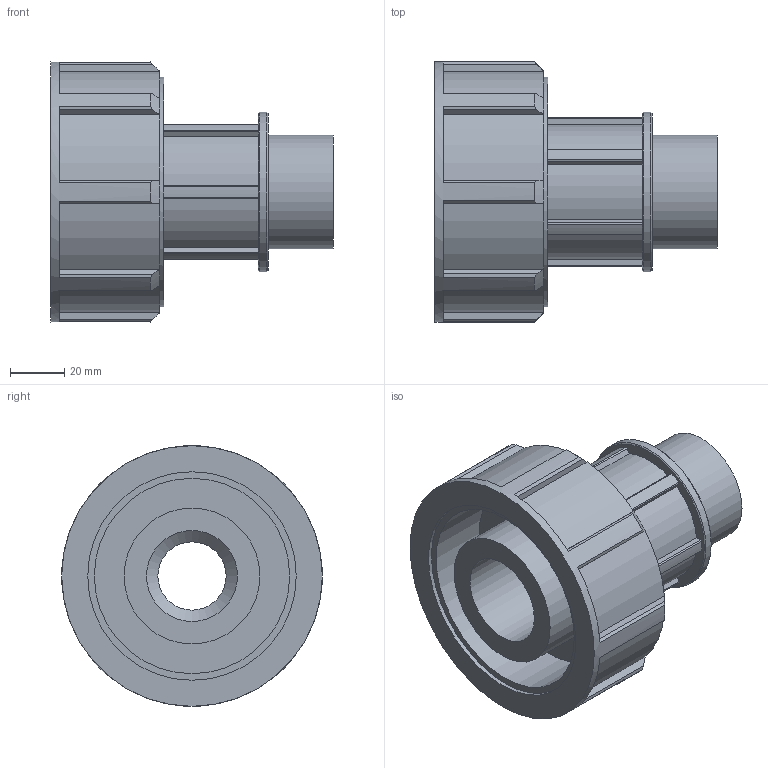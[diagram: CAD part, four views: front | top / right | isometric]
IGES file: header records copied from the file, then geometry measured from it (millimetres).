
Global section: file name: 072500050013_182500050013_0725060500130A.ipt; native system: Autodesk Inventor 2015; preprocessor: unknown; author: KIM; date: 20170608.042152; units: millimetre
Bounding box: 104 x 96 x 96 mm (x, y, z)
Volume: 239323.7 mm3; surface area: 62316.3 mm2
Topology: 1 solids, 1 shells, 115 faces, 322 edges, 217 vertices
Faces by surface type: plane 74, cylinder 25, cone 10, revolution 6
Full cylindrical faces by diameter (mm): 41.91 x1, 50 x1, 58.674 x1, 84.48 x1, 96 x1
